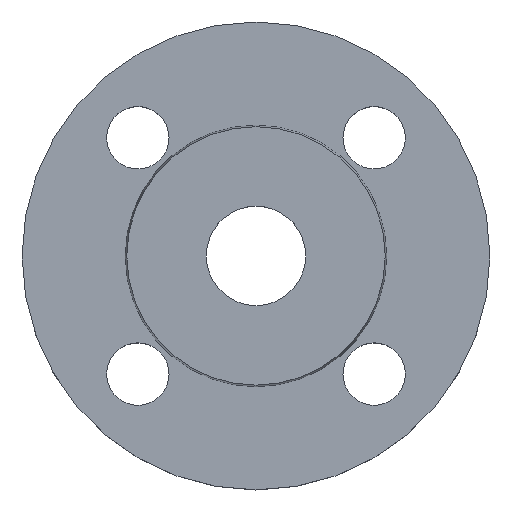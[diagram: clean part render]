
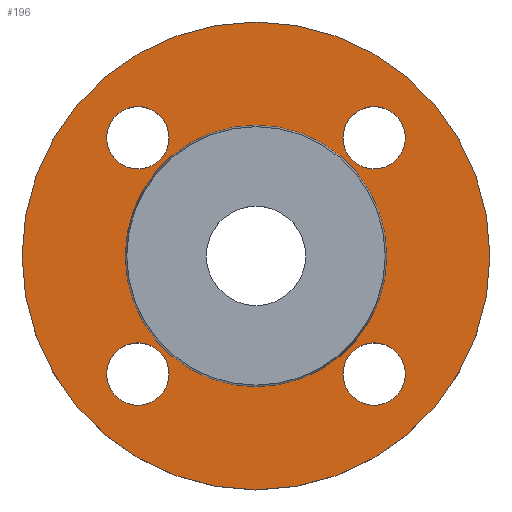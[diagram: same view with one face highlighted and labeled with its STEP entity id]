
A CAD part, top view. The second image highlights one B-rep face of the part: STEP entity #196.
In plain terms, the highlighted planar face has unit normal (0, 0, 1).
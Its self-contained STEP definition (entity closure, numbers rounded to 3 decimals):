
#4 = AXIS2_PLACEMENT_3D ( 'NONE', #544, #548, #547 ) ;
#17 = CARTESIAN_POINT ( 'NONE',  ( 26.517, 26.517, -2. ) ) ;
#22 = AXIS2_PLACEMENT_3D ( 'NONE', #210, #209, #208 ) ;
#28 = DIRECTION ( 'NONE',  ( 0., 0., -1. ) ) ;
#29 = AXIS2_PLACEMENT_3D ( 'NONE', #446, #445, #444 ) ;
#33 = DIRECTION ( 'NONE',  ( 1., 0., 0. ) ) ;
#39 = DIRECTION ( 'NONE',  ( 1., 0., 0. ) ) ;
#47 = CARTESIAN_POINT ( 'NONE',  ( 33.517, -26.517, -2. ) ) ;
#54 = DIRECTION ( 'NONE',  ( 0., 0., -1. ) ) ;
#55 = CARTESIAN_POINT ( 'NONE',  ( -52.5, 0., -2. ) ) ;
#57 = CARTESIAN_POINT ( 'NONE',  ( -33.517, -26.517, -2. ) ) ;
#65 = CARTESIAN_POINT ( 'NONE',  ( -33.517, 26.517, -2. ) ) ;
#68 = FACE_BOUND ( 'NONE', #577, .T. ) ;
#70 = FACE_OUTER_BOUND ( 'NONE', #556, .T. ) ;
#72 = CARTESIAN_POINT ( 'NONE',  ( 19.517, -26.517, -2. ) ) ;
#79 = EDGE_CURVE ( 'NONE', #342, #592, #267, .T. ) ;
#80 = AXIS2_PLACEMENT_3D ( 'NONE', #560, #549, #89 ) ;
#81 = CIRCLE ( 'NONE', #80, 52.5 ) ;
#89 = DIRECTION ( 'NONE',  ( -1., 0., 0. ) ) ;
#93 = CARTESIAN_POINT ( 'NONE',  ( 29.353, 0., -2. ) ) ;
#98 = EDGE_CURVE ( 'NONE', #542, #582, #162, .T. ) ;
#101 = CIRCLE ( 'NONE', #412, 7. ) ;
#113 = CIRCLE ( 'NONE', #22, 7. ) ;
#118 = DIRECTION ( 'NONE',  ( 0., 0., -1. ) ) ;
#120 = FACE_BOUND ( 'NONE', #257, .T. ) ;
#123 = FACE_BOUND ( 'NONE', #591, .T. ) ;
#126 = FACE_BOUND ( 'NONE', #578, .T. ) ;
#127 = PLANE ( 'NONE',  #244 ) ;
#133 = CARTESIAN_POINT ( 'NONE',  ( 0., 0., -2. ) ) ;
#134 = DIRECTION ( 'NONE',  ( 0., 0., -1. ) ) ;
#135 = FACE_BOUND ( 'NONE', #416, .T. ) ;
#137 = DIRECTION ( 'NONE',  ( -1., 0., 0. ) ) ;
#140 = AXIS2_PLACEMENT_3D ( 'NONE', #502, #634, #653 ) ;
#150 = EDGE_CURVE ( 'NONE', #596, #327, #255, .T. ) ;
#162 = CIRCLE ( 'NONE', #204, 7. ) ;
#170 = EDGE_CURVE ( 'NONE', #534, #336, #113, .T. ) ;
#174 = AXIS2_PLACEMENT_3D ( 'NONE', #296, #54, #310 ) ;
#196 = ADVANCED_FACE ( 'NONE', ( #135, #120, #68, #126, #123, #70 ), #127, .T. ) ;
#204 = AXIS2_PLACEMENT_3D ( 'NONE', #652, #586, #648 ) ;
#208 = DIRECTION ( 'NONE',  ( 1., 0., 0. ) ) ;
#209 = DIRECTION ( 'NONE',  ( 0., 0., -1. ) ) ;
#210 = CARTESIAN_POINT ( 'NONE',  ( -26.517, -26.517, -2. ) ) ;
#218 = CIRCLE ( 'NONE', #669, 29.353 ) ;
#233 = DIRECTION ( 'NONE',  ( 1., 0., 0. ) ) ;
#238 = AXIS2_PLACEMENT_3D ( 'NONE', #605, #619, #611 ) ;
#240 = EDGE_CURVE ( 'NONE', #529, #595, #218, .T. ) ;
#244 = AXIS2_PLACEMENT_3D ( 'NONE', #93, #580, #33 ) ;
#255 = CIRCLE ( 'NONE', #645, 7. ) ;
#257 = EDGE_LOOP ( 'NONE', ( #358, #361 ) ) ;
#267 = CIRCLE ( 'NONE', #140, 52.5 ) ;
#270 = AXIS2_PLACEMENT_3D ( 'NONE', #625, #622, #39 ) ;
#289 = CIRCLE ( 'NONE', #174, 29.353 ) ;
#296 = CARTESIAN_POINT ( 'NONE',  ( 0., 0., -2. ) ) ;
#310 = DIRECTION ( 'NONE',  ( -1., 0., 0. ) ) ;
#327 = VERTEX_POINT ( 'NONE', #631 ) ;
#333 = EDGE_CURVE ( 'NONE', #336, #534, #101, .T. ) ;
#336 = VERTEX_POINT ( 'NONE', #623 ) ;
#339 = EDGE_CURVE ( 'NONE', #604, #568, #346, .T. ) ;
#342 = VERTEX_POINT ( 'NONE', #55 ) ;
#346 = CIRCLE ( 'NONE', #270, 7. ) ;
#356 = ORIENTED_EDGE ( 'NONE', *, *, #98, .T. ) ;
#357 = ORIENTED_EDGE ( 'NONE', *, *, #508, .T. ) ;
#358 = ORIENTED_EDGE ( 'NONE', *, *, #333, .T. ) ;
#361 = ORIENTED_EDGE ( 'NONE', *, *, #170, .T. ) ;
#362 = ORIENTED_EDGE ( 'NONE', *, *, #339, .T. ) ;
#363 = ORIENTED_EDGE ( 'NONE', *, *, #647, .T. ) ;
#366 = ORIENTED_EDGE ( 'NONE', *, *, #150, .T. ) ;
#368 = ORIENTED_EDGE ( 'NONE', *, *, #453, .T. ) ;
#369 = ORIENTED_EDGE ( 'NONE', *, *, #433, .T. ) ;
#370 = ORIENTED_EDGE ( 'NONE', *, *, #240, .T. ) ;
#371 = ORIENTED_EDGE ( 'NONE', *, *, #510, .F. ) ;
#372 = ORIENTED_EDGE ( 'NONE', *, *, #79, .F. ) ;
#412 = AXIS2_PLACEMENT_3D ( 'NONE', #628, #118, #626 ) ;
#416 = EDGE_LOOP ( 'NONE', ( #356, #357 ) ) ;
#433 = EDGE_CURVE ( 'NONE', #595, #529, #289, .T. ) ;
#444 = DIRECTION ( 'NONE',  ( 1., 0., 0. ) ) ;
#445 = DIRECTION ( 'NONE',  ( 0., 0., -1. ) ) ;
#446 = CARTESIAN_POINT ( 'NONE',  ( -26.517, 26.517, -2. ) ) ;
#453 = EDGE_CURVE ( 'NONE', #327, #596, #562, .T. ) ;
#490 = CARTESIAN_POINT ( 'NONE',  ( -19.517, 26.517, -2. ) ) ;
#500 = CARTESIAN_POINT ( 'NONE',  ( 33.517, 26.517, -2. ) ) ;
#502 = CARTESIAN_POINT ( 'NONE',  ( 0., 0., -2. ) ) ;
#508 = EDGE_CURVE ( 'NONE', #582, #542, #632, .T. ) ;
#510 = EDGE_CURVE ( 'NONE', #592, #342, #81, .T. ) ;
#513 = CARTESIAN_POINT ( 'NONE',  ( -29.353, 0., -2. ) ) ;
#515 = CARTESIAN_POINT ( 'NONE',  ( 52.5, 0., -2. ) ) ;
#529 = VERTEX_POINT ( 'NONE', #572 ) ;
#534 = VERTEX_POINT ( 'NONE', #57 ) ;
#542 = VERTEX_POINT ( 'NONE', #47 ) ;
#544 = CARTESIAN_POINT ( 'NONE',  ( 26.517, -26.517, -2. ) ) ;
#547 = DIRECTION ( 'NONE',  ( 1., 0., 0. ) ) ;
#548 = DIRECTION ( 'NONE',  ( 0., 0., -1. ) ) ;
#549 = DIRECTION ( 'NONE',  ( 0., 0., -1. ) ) ;
#556 = EDGE_LOOP ( 'NONE', ( #371, #372 ) ) ;
#560 = CARTESIAN_POINT ( 'NONE',  ( 0., 0., -2. ) ) ;
#562 = CIRCLE ( 'NONE', #238, 7. ) ;
#568 = VERTEX_POINT ( 'NONE', #65 ) ;
#572 = CARTESIAN_POINT ( 'NONE',  ( 29.353, 0., -2. ) ) ;
#577 = EDGE_LOOP ( 'NONE', ( #362, #363 ) ) ;
#578 = EDGE_LOOP ( 'NONE', ( #366, #368 ) ) ;
#580 = DIRECTION ( 'NONE',  ( 0., 0., 1. ) ) ;
#582 = VERTEX_POINT ( 'NONE', #72 ) ;
#586 = DIRECTION ( 'NONE',  ( 0., 0., -1. ) ) ;
#591 = EDGE_LOOP ( 'NONE', ( #369, #370 ) ) ;
#592 = VERTEX_POINT ( 'NONE', #515 ) ;
#595 = VERTEX_POINT ( 'NONE', #513 ) ;
#596 = VERTEX_POINT ( 'NONE', #500 ) ;
#604 = VERTEX_POINT ( 'NONE', #490 ) ;
#605 = CARTESIAN_POINT ( 'NONE',  ( 26.517, 26.517, -2. ) ) ;
#611 = DIRECTION ( 'NONE',  ( 1., 0., 0. ) ) ;
#619 = DIRECTION ( 'NONE',  ( 0., 0., -1. ) ) ;
#622 = DIRECTION ( 'NONE',  ( 0., 0., -1. ) ) ;
#623 = CARTESIAN_POINT ( 'NONE',  ( -19.517, -26.517, -2. ) ) ;
#625 = CARTESIAN_POINT ( 'NONE',  ( -26.517, 26.517, -2. ) ) ;
#626 = DIRECTION ( 'NONE',  ( 1., 0., 0. ) ) ;
#628 = CARTESIAN_POINT ( 'NONE',  ( -26.517, -26.517, -2. ) ) ;
#631 = CARTESIAN_POINT ( 'NONE',  ( 19.517, 26.517, -2. ) ) ;
#632 = CIRCLE ( 'NONE', #4, 7. ) ;
#634 = DIRECTION ( 'NONE',  ( 0., 0., -1. ) ) ;
#645 = AXIS2_PLACEMENT_3D ( 'NONE', #17, #28, #233 ) ;
#647 = EDGE_CURVE ( 'NONE', #568, #604, #655, .T. ) ;
#648 = DIRECTION ( 'NONE',  ( 1., 0., 0. ) ) ;
#652 = CARTESIAN_POINT ( 'NONE',  ( 26.517, -26.517, -2. ) ) ;
#653 = DIRECTION ( 'NONE',  ( -1., 0., 0. ) ) ;
#655 = CIRCLE ( 'NONE', #29, 7. ) ;
#669 = AXIS2_PLACEMENT_3D ( 'NONE', #133, #134, #137 ) ;
